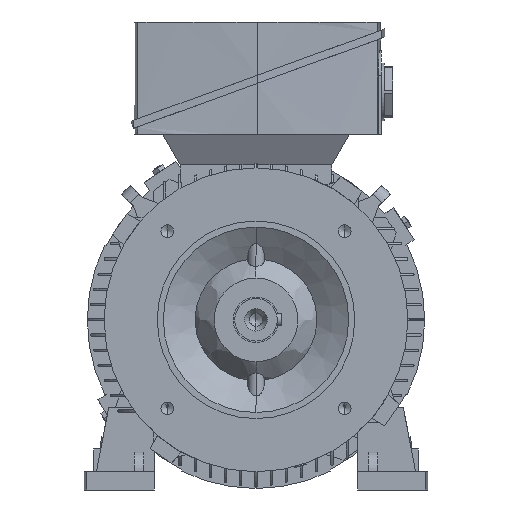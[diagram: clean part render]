
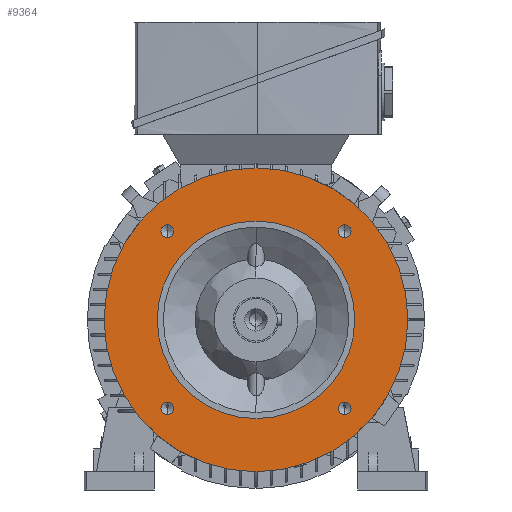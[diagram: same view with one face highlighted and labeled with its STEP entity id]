
A CAD part, left-side view. The second image highlights one B-rep face of the part: STEP entity #9364.
In plain terms, the highlighted planar face has unit normal (-1, 0, 0).
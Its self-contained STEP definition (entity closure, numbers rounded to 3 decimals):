
#116 = CIRCLE ( 'NONE', #20543, 4.19 ) ;
#154 = FACE_BOUND ( 'NONE', #1495, .T. ) ;
#753 = DIRECTION ( 'NONE',  ( 1., 0., 0. ) ) ;
#852 = CARTESIAN_POINT ( 'NONE',  ( -40., 58.336, 54.146 ) ) ;
#1495 = EDGE_LOOP ( 'NONE', ( #8913, #29285 ) ) ;
#1693 = EDGE_CURVE ( 'NONE', #41417, #45212, #37062, .T. ) ;
#1764 = EDGE_CURVE ( 'NONE', #19274, #22914, #35380, .T. ) ;
#2276 = DIRECTION ( 'NONE',  ( 0., 0., 1. ) ) ;
#2429 = DIRECTION ( 'NONE',  ( 1., 0., 0. ) ) ;
#2488 = CARTESIAN_POINT ( 'NONE',  ( -40., 0., 0. ) ) ;
#3095 = DIRECTION ( 'NONE',  ( 1., 0., 0. ) ) ;
#5011 = ORIENTED_EDGE ( 'NONE', *, *, #18057, .F. ) ;
#6144 = VERTEX_POINT ( 'NONE', #36961 ) ;
#7771 = EDGE_CURVE ( 'NONE', #39876, #34551, #40133, .T. ) ;
#8120 = EDGE_CURVE ( 'NONE', #18441, #6144, #21478, .T. ) ;
#8302 = DIRECTION ( 'NONE',  ( 1., 0., 0. ) ) ;
#8564 = DIRECTION ( 'NONE',  ( 0., 0., 1. ) ) ;
#8607 = DIRECTION ( 'NONE',  ( -1., 0., 0. ) ) ;
#8729 = CARTESIAN_POINT ( 'NONE',  ( -40., 0., 82.5 ) ) ;
#8913 = ORIENTED_EDGE ( 'NONE', *, *, #13853, .T. ) ;
#9364 = ADVANCED_FACE ( 'NONE', ( #28004, #39759, #154, #24612, #42722, #46284 ), #9458, .T. ) ;
#9458 = PLANE ( 'NONE',  #36718 ) ;
#9655 = EDGE_CURVE ( 'NONE', #22914, #19274, #28680, .T. ) ;
#10443 = EDGE_LOOP ( 'NONE', ( #12680, #21652 ) ) ;
#10489 = AXIS2_PLACEMENT_3D ( 'NONE', #36088, #8302, #32545 ) ;
#10690 = DIRECTION ( 'NONE',  ( 0., 0., 1. ) ) ;
#10694 = DIRECTION ( 'NONE',  ( 0., 0., -1. ) ) ;
#10743 = DIRECTION ( 'NONE',  ( 1., 0., 0. ) ) ;
#10779 = EDGE_CURVE ( 'NONE', #23857, #11792, #42440, .T. ) ;
#10799 = CARTESIAN_POINT ( 'NONE',  ( -40., 58.336, -58.336 ) ) ;
#10814 = DIRECTION ( 'NONE',  ( 1., 0., 0. ) ) ;
#10875 = CARTESIAN_POINT ( 'NONE',  ( -40., 0., 0. ) ) ;
#11005 = CIRCLE ( 'NONE', #10489, 4.19 ) ;
#11792 = VERTEX_POINT ( 'NONE', #36983 ) ;
#12225 = CARTESIAN_POINT ( 'NONE',  ( -40., -58.336, 54.146 ) ) ;
#12424 = DIRECTION ( 'NONE',  ( 0., 0., -1. ) ) ;
#12485 = DIRECTION ( 'NONE',  ( 1., 0., 0. ) ) ;
#12531 = CARTESIAN_POINT ( 'NONE',  ( -40., -58.336, 58.336 ) ) ;
#12680 = ORIENTED_EDGE ( 'NONE', *, *, #10779, .T. ) ;
#12681 = CIRCLE ( 'NONE', #20834, 100. ) ;
#13614 = ORIENTED_EDGE ( 'NONE', *, *, #1764, .T. ) ;
#13853 = EDGE_CURVE ( 'NONE', #34551, #39876, #11005, .T. ) ;
#13855 = DIRECTION ( 'NONE',  ( 0., 0., -1. ) ) ;
#13966 = DIRECTION ( 'NONE',  ( 0., 0., -1. ) ) ;
#14373 = CIRCLE ( 'NONE', #25788, 100. ) ;
#14448 = VERTEX_POINT ( 'NONE', #31995 ) ;
#14491 = AXIS2_PLACEMENT_3D ( 'NONE', #10875, #10814, #10690 ) ;
#14652 = ORIENTED_EDGE ( 'NONE', *, *, #29946, .T. ) ;
#14675 = AXIS2_PLACEMENT_3D ( 'NONE', #12531, #12485, #12424 ) ;
#14958 = DIRECTION ( 'NONE',  ( 1., 0., 0. ) ) ;
#16468 = EDGE_LOOP ( 'NONE', ( #13614, #34109 ) ) ;
#16942 = ORIENTED_EDGE ( 'NONE', *, *, #1693, .T. ) ;
#17674 = CARTESIAN_POINT ( 'NONE',  ( -40., -58.336, -58.336 ) ) ;
#18057 = EDGE_CURVE ( 'NONE', #30306, #14448, #12681, .T. ) ;
#18441 = VERTEX_POINT ( 'NONE', #43306 ) ;
#19274 = VERTEX_POINT ( 'NONE', #32288 ) ;
#20357 = CARTESIAN_POINT ( 'NONE',  ( -40., -58.336, -58.336 ) ) ;
#20543 = AXIS2_PLACEMENT_3D ( 'NONE', #26123, #26230, #26280 ) ;
#20834 = AXIS2_PLACEMENT_3D ( 'NONE', #32499, #32611, #32769 ) ;
#21114 = AXIS2_PLACEMENT_3D ( 'NONE', #2488, #2429, #2276 ) ;
#21374 = DIRECTION ( 'NONE',  ( 0., 0., -1. ) ) ;
#21478 = CIRCLE ( 'NONE', #44941, 4.19 ) ;
#21652 = ORIENTED_EDGE ( 'NONE', *, *, #24415, .T. ) ;
#21876 = AXIS2_PLACEMENT_3D ( 'NONE', #43734, #25811, #13966 ) ;
#22914 = VERTEX_POINT ( 'NONE', #43807 ) ;
#23449 = CARTESIAN_POINT ( 'NONE',  ( -40., 58.336, -58.336 ) ) ;
#23857 = VERTEX_POINT ( 'NONE', #26645 ) ;
#24415 = EDGE_CURVE ( 'NONE', #11792, #23857, #40443, .T. ) ;
#24612 = FACE_BOUND ( 'NONE', #10443, .T. ) ;
#24759 = CARTESIAN_POINT ( 'NONE',  ( -40., 0., 0. ) ) ;
#24966 = EDGE_LOOP ( 'NONE', ( #16942, #14652 ) ) ;
#25788 = AXIS2_PLACEMENT_3D ( 'NONE', #24759, #3095, #28420 ) ;
#25811 = DIRECTION ( 'NONE',  ( 1., 0., 0. ) ) ;
#25836 = CIRCLE ( 'NONE', #29325, 4.19 ) ;
#26123 = CARTESIAN_POINT ( 'NONE',  ( -40., -58.336, 58.336 ) ) ;
#26230 = DIRECTION ( 'NONE',  ( 1., 0., 0. ) ) ;
#26280 = DIRECTION ( 'NONE',  ( 0., 0., -1. ) ) ;
#26645 = CARTESIAN_POINT ( 'NONE',  ( -40., 58.336, -62.526 ) ) ;
#27003 = EDGE_LOOP ( 'NONE', ( #5011, #44505 ) ) ;
#27617 = AXIS2_PLACEMENT_3D ( 'NONE', #23449, #753, #13855 ) ;
#27681 = ORIENTED_EDGE ( 'NONE', *, *, #8120, .T. ) ;
#28004 = FACE_BOUND ( 'NONE', #16468, .T. ) ;
#28420 = DIRECTION ( 'NONE',  ( 0., 0., 1. ) ) ;
#28680 = CIRCLE ( 'NONE', #21114, 65. ) ;
#29285 = ORIENTED_EDGE ( 'NONE', *, *, #7771, .T. ) ;
#29325 = AXIS2_PLACEMENT_3D ( 'NONE', #17674, #43345, #21374 ) ;
#29946 = EDGE_CURVE ( 'NONE', #45212, #41417, #116, .T. ) ;
#30306 = VERTEX_POINT ( 'NONE', #35400 ) ;
#31995 = CARTESIAN_POINT ( 'NONE',  ( -40., 0., -100. ) ) ;
#32288 = CARTESIAN_POINT ( 'NONE',  ( -40., 0., 65. ) ) ;
#32499 = CARTESIAN_POINT ( 'NONE',  ( -40., 0., 0. ) ) ;
#32545 = DIRECTION ( 'NONE',  ( 0., 0., -1. ) ) ;
#32611 = DIRECTION ( 'NONE',  ( 1., 0., 0. ) ) ;
#32769 = DIRECTION ( 'NONE',  ( 0., 0., 1. ) ) ;
#34109 = ORIENTED_EDGE ( 'NONE', *, *, #9655, .T. ) ;
#34551 = VERTEX_POINT ( 'NONE', #852 ) ;
#34575 = DIRECTION ( 'NONE',  ( 0., 0., -1. ) ) ;
#35380 = CIRCLE ( 'NONE', #14491, 65. ) ;
#35400 = CARTESIAN_POINT ( 'NONE',  ( -40., 0., 100. ) ) ;
#36088 = CARTESIAN_POINT ( 'NONE',  ( -40., 58.336, 58.336 ) ) ;
#36718 = AXIS2_PLACEMENT_3D ( 'NONE', #8729, #8607, #8564 ) ;
#36961 = CARTESIAN_POINT ( 'NONE',  ( -40., -58.336, -54.146 ) ) ;
#36983 = CARTESIAN_POINT ( 'NONE',  ( -40., 58.336, -54.146 ) ) ;
#37062 = CIRCLE ( 'NONE', #14675, 4.19 ) ;
#37326 = CARTESIAN_POINT ( 'NONE',  ( -40., 58.336, 62.526 ) ) ;
#38212 = ORIENTED_EDGE ( 'NONE', *, *, #39378, .T. ) ;
#39287 = AXIS2_PLACEMENT_3D ( 'NONE', #10799, #10743, #10694 ) ;
#39378 = EDGE_CURVE ( 'NONE', #6144, #18441, #25836, .T. ) ;
#39759 = FACE_OUTER_BOUND ( 'NONE', #27003, .T. ) ;
#39876 = VERTEX_POINT ( 'NONE', #37326 ) ;
#40133 = CIRCLE ( 'NONE', #21876, 4.19 ) ;
#40299 = CARTESIAN_POINT ( 'NONE',  ( -40., -58.336, 62.526 ) ) ;
#40443 = CIRCLE ( 'NONE', #39287, 4.19 ) ;
#40620 = EDGE_LOOP ( 'NONE', ( #27681, #38212 ) ) ;
#41417 = VERTEX_POINT ( 'NONE', #12225 ) ;
#42440 = CIRCLE ( 'NONE', #27617, 4.19 ) ;
#42722 = FACE_BOUND ( 'NONE', #40620, .T. ) ;
#43306 = CARTESIAN_POINT ( 'NONE',  ( -40., -58.336, -62.526 ) ) ;
#43345 = DIRECTION ( 'NONE',  ( 1., 0., 0. ) ) ;
#43734 = CARTESIAN_POINT ( 'NONE',  ( -40., 58.336, 58.336 ) ) ;
#43807 = CARTESIAN_POINT ( 'NONE',  ( -40., 0., -65. ) ) ;
#44505 = ORIENTED_EDGE ( 'NONE', *, *, #45847, .F. ) ;
#44941 = AXIS2_PLACEMENT_3D ( 'NONE', #20357, #14958, #34575 ) ;
#45212 = VERTEX_POINT ( 'NONE', #40299 ) ;
#45847 = EDGE_CURVE ( 'NONE', #14448, #30306, #14373, .T. ) ;
#46284 = FACE_BOUND ( 'NONE', #24966, .T. ) ;
